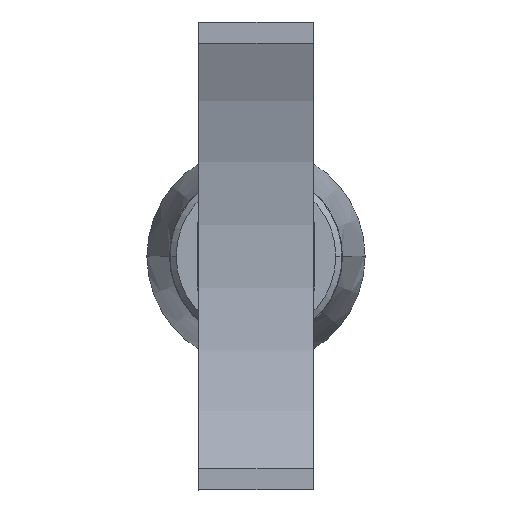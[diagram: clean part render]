
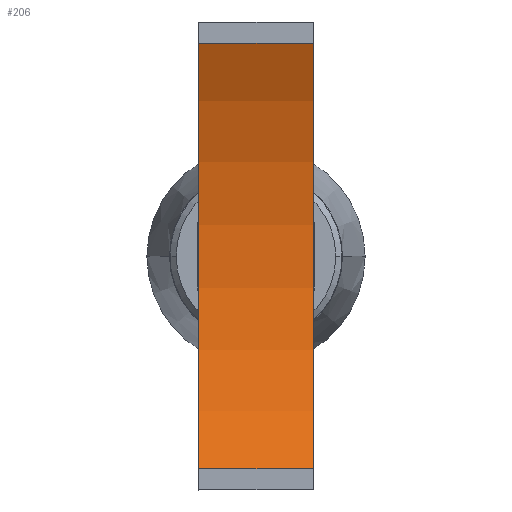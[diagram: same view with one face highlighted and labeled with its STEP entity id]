
A CAD part, top view. The second image highlights one B-rep face of the part: STEP entity #206.
In plain terms, the highlighted cylindrical face has radius 304.8 mm (diameter 609.6 mm), a partial arc.
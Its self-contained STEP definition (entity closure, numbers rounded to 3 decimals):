
#206=ADVANCED_FACE('',(#505),#506,.F.);
#505=FACE_OUTER_BOUND('',#935,.T.);
#506=CYLINDRICAL_SURFACE('',#936,304.8);
#935=EDGE_LOOP('',(#1339,#1340,#1341,#1342));
#936=AXIS2_PLACEMENT_3D('',#1343,#1344,#1345);
#1339=ORIENTED_EDGE('',*,*,#2472,.T.);
#1340=ORIENTED_EDGE('',*,*,#2473,.F.);
#1341=ORIENTED_EDGE('',*,*,#2474,.T.);
#1342=ORIENTED_EDGE('',*,*,#2469,.T.);
#1343=CARTESIAN_POINT('',(397.619,508.167,259.678));
#1344=DIRECTION('',(1.0,0.,0.));
#1345=DIRECTION('',(0.,1.0,0.));
#2469=EDGE_CURVE('',#2920,#2918,#2921,.T.);
#2472=EDGE_CURVE('',#2918,#2924,#2925,.T.);
#2473=EDGE_CURVE('',#2926,#2924,#2927,.T.);
#2474=EDGE_CURVE('',#2926,#2920,#2928,.T.);
#2918=VERTEX_POINT('',#3570);
#2920=VERTEX_POINT('',#3573);
#2921=LINE('',#3574,#3575);
#2924=VERTEX_POINT('',#3579);
#2925=CIRCLE('',#3580,304.8);
#2926=VERTEX_POINT('',#3581);
#2927=LINE('',#3582,#3583);
#2928=CIRCLE('',#3584,304.8);
#3570=CARTESIAN_POINT('',(470.619,372.214,-13.122));
#3573=CARTESIAN_POINT('',(397.619,372.214,-13.122));
#3574=CARTESIAN_POINT('',(397.619,372.214,-13.122));
#3575=VECTOR('',#5125,1.0);
#3579=CARTESIAN_POINT('',(470.619,644.12,-13.122));
#3580=AXIS2_PLACEMENT_3D('',#5127,#5128,#5129);
#3581=CARTESIAN_POINT('',(397.619,644.12,-13.122));
#3582=CARTESIAN_POINT('',(397.619,644.12,-13.122));
#3583=VECTOR('',#5130,1.0);
#3584=AXIS2_PLACEMENT_3D('',#5131,#5132,#5133);
#5125=DIRECTION('',(1.0,0.,0.));
#5127=CARTESIAN_POINT('',(470.619,508.167,259.678));
#5128=DIRECTION('',(1.0,0.,0.));
#5129=DIRECTION('',(0.,1.0,0.));
#5130=DIRECTION('',(1.0,0.,0.));
#5131=CARTESIAN_POINT('',(397.619,508.167,259.678));
#5132=DIRECTION('',(-1.0,0.,0.));
#5133=DIRECTION('',(0.,1.0,0.));
